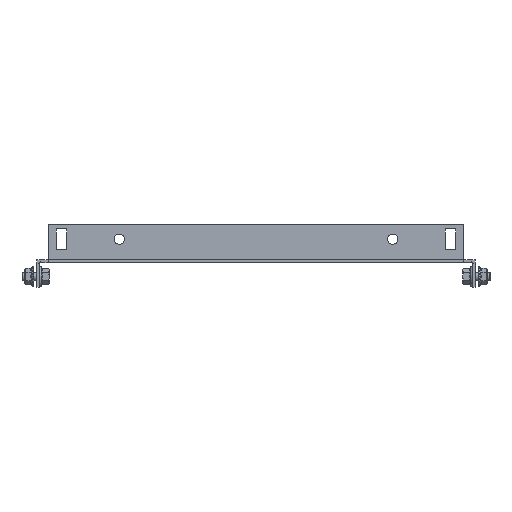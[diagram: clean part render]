
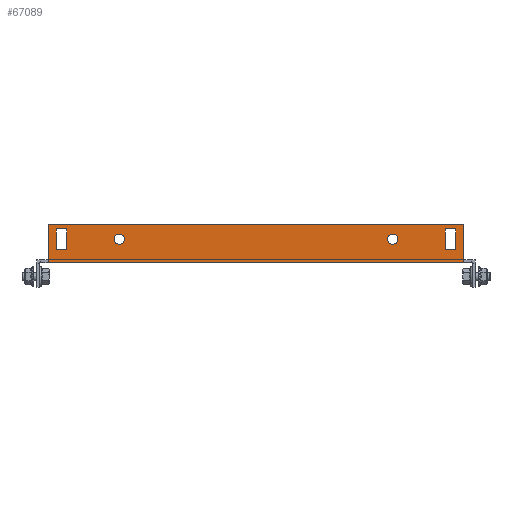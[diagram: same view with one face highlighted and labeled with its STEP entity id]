
A CAD part, front view. The second image highlights one B-rep face of the part: STEP entity #67089.
In plain terms, the highlighted planar face has unit normal (0, -1, 0).
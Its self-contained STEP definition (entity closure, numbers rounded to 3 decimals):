
#61990 = VERTEX_POINT('',#61991);
#61991 = CARTESIAN_POINT('',(142.,-484.5,0.));
#61997 = EDGE_CURVE('',#61998,#61990,#62000,.T.);
#61998 = VERTEX_POINT('',#61999);
#61999 = CARTESIAN_POINT('',(-142.,-484.5,0.));
#62000 = LINE('',#62001,#62002);
#62001 = CARTESIAN_POINT('',(-142.,-484.5,0.));
#62002 = VECTOR('',#62003,1.);
#62003 = DIRECTION('',(1.,-0.,-0.));
#66968 = VERTEX_POINT('',#66969);
#66969 = CARTESIAN_POINT('',(-142.,-484.5,2.6));
#66984 = EDGE_CURVE('',#66968,#61998,#66985,.T.);
#66985 = LINE('',#66986,#66987);
#66986 = CARTESIAN_POINT('',(-142.,-484.5,2.6));
#66987 = VECTOR('',#66988,1.);
#66988 = DIRECTION('',(0.,0.,-1.));
#67008 = VERTEX_POINT('',#67009);
#67009 = CARTESIAN_POINT('',(142.,-484.5,2.6));
#67015 = EDGE_CURVE('',#67008,#61990,#67016,.T.);
#67016 = LINE('',#67017,#67018);
#67017 = CARTESIAN_POINT('',(142.,-484.5,2.));
#67018 = VECTOR('',#67019,1.);
#67019 = DIRECTION('',(-0.,0.,-1.));
#67041 = VERTEX_POINT('',#67042);
#67042 = CARTESIAN_POINT('',(142.,-484.5,26.));
#67048 = EDGE_CURVE('',#67008,#67041,#67049,.T.);
#67049 = LINE('',#67050,#67051);
#67050 = CARTESIAN_POINT('',(142.,-484.5,26.));
#67051 = VECTOR('',#67052,1.);
#67052 = DIRECTION('',(-0.,0.,1.));
#67063 = EDGE_CURVE('',#67064,#66968,#67066,.T.);
#67064 = VERTEX_POINT('',#67065);
#67065 = CARTESIAN_POINT('',(-142.,-484.5,26.));
#67066 = LINE('',#67067,#67068);
#67067 = CARTESIAN_POINT('',(-142.,-484.5,2.));
#67068 = VECTOR('',#67069,1.);
#67069 = DIRECTION('',(-0.,0.,-1.));
#67089 = ADVANCED_FACE('',(#67090,#67124,#67135,#67146,#67180),#67193,
  .F.);
#67090 = FACE_BOUND('',#67091,.T.);
#67091 = EDGE_LOOP('',(#67092,#67102,#67110,#67118));
#67092 = ORIENTED_EDGE('',*,*,#67093,.F.);
#67093 = EDGE_CURVE('',#67094,#67096,#67098,.T.);
#67094 = VERTEX_POINT('',#67095);
#67095 = CARTESIAN_POINT('',(136.5,-484.5,9.));
#67096 = VERTEX_POINT('',#67097);
#67097 = CARTESIAN_POINT('',(136.5,-484.5,23.));
#67098 = LINE('',#67099,#67100);
#67099 = CARTESIAN_POINT('',(136.5,-484.5,23.));
#67100 = VECTOR('',#67101,1.);
#67101 = DIRECTION('',(-0.,-0.,1.));
#67102 = ORIENTED_EDGE('',*,*,#67103,.F.);
#67103 = EDGE_CURVE('',#67104,#67094,#67106,.T.);
#67104 = VERTEX_POINT('',#67105);
#67105 = CARTESIAN_POINT('',(129.5,-484.5,9.));
#67106 = LINE('',#67107,#67108);
#67107 = CARTESIAN_POINT('',(136.5,-484.5,9.));
#67108 = VECTOR('',#67109,1.);
#67109 = DIRECTION('',(1.,-0.,-0.));
#67110 = ORIENTED_EDGE('',*,*,#67111,.F.);
#67111 = EDGE_CURVE('',#67112,#67104,#67114,.T.);
#67112 = VERTEX_POINT('',#67113);
#67113 = CARTESIAN_POINT('',(129.5,-484.5,23.));
#67114 = LINE('',#67115,#67116);
#67115 = CARTESIAN_POINT('',(129.5,-484.5,9.));
#67116 = VECTOR('',#67117,1.);
#67117 = DIRECTION('',(0.,-0.,-1.));
#67118 = ORIENTED_EDGE('',*,*,#67119,.F.);
#67119 = EDGE_CURVE('',#67096,#67112,#67120,.T.);
#67120 = LINE('',#67121,#67122);
#67121 = CARTESIAN_POINT('',(129.5,-484.5,23.));
#67122 = VECTOR('',#67123,1.);
#67123 = DIRECTION('',(-1.,-0.,-0.));
#67124 = FACE_BOUND('',#67125,.T.);
#67125 = EDGE_LOOP('',(#67126));
#67126 = ORIENTED_EDGE('',*,*,#67127,.F.);
#67127 = EDGE_CURVE('',#67128,#67128,#67130,.T.);
#67128 = VERTEX_POINT('',#67129);
#67129 = CARTESIAN_POINT('',(93.5,-484.5,19.5));
#67130 = CIRCLE('',#67131,3.5);
#67131 = AXIS2_PLACEMENT_3D('',#67132,#67133,#67134);
#67132 = CARTESIAN_POINT('',(93.5,-484.5,16.));
#67133 = DIRECTION('',(0.,-1.,0.));
#67134 = DIRECTION('',(0.,0.,1.));
#67135 = FACE_BOUND('',#67136,.T.);
#67136 = EDGE_LOOP('',(#67137));
#67137 = ORIENTED_EDGE('',*,*,#67138,.F.);
#67138 = EDGE_CURVE('',#67139,#67139,#67141,.T.);
#67139 = VERTEX_POINT('',#67140);
#67140 = CARTESIAN_POINT('',(-93.5,-484.5,12.5));
#67141 = CIRCLE('',#67142,3.5);
#67142 = AXIS2_PLACEMENT_3D('',#67143,#67144,#67145);
#67143 = CARTESIAN_POINT('',(-93.5,-484.5,16.));
#67144 = DIRECTION('',(0.,-1.,0.));
#67145 = DIRECTION('',(0.,0.,-1.));
#67146 = FACE_BOUND('',#67147,.T.);
#67147 = EDGE_LOOP('',(#67148,#67158,#67166,#67174));
#67148 = ORIENTED_EDGE('',*,*,#67149,.F.);
#67149 = EDGE_CURVE('',#67150,#67152,#67154,.T.);
#67150 = VERTEX_POINT('',#67151);
#67151 = CARTESIAN_POINT('',(-136.5,-484.5,23.));
#67152 = VERTEX_POINT('',#67153);
#67153 = CARTESIAN_POINT('',(-136.5,-484.5,9.));
#67154 = LINE('',#67155,#67156);
#67155 = CARTESIAN_POINT('',(-136.5,-484.5,9.));
#67156 = VECTOR('',#67157,1.);
#67157 = DIRECTION('',(-0.,-0.,-1.));
#67158 = ORIENTED_EDGE('',*,*,#67159,.F.);
#67159 = EDGE_CURVE('',#67160,#67150,#67162,.T.);
#67160 = VERTEX_POINT('',#67161);
#67161 = CARTESIAN_POINT('',(-129.5,-484.5,23.));
#67162 = LINE('',#67163,#67164);
#67163 = CARTESIAN_POINT('',(-136.5,-484.5,23.));
#67164 = VECTOR('',#67165,1.);
#67165 = DIRECTION('',(-1.,-0.,-0.));
#67166 = ORIENTED_EDGE('',*,*,#67167,.F.);
#67167 = EDGE_CURVE('',#67168,#67160,#67170,.T.);
#67168 = VERTEX_POINT('',#67169);
#67169 = CARTESIAN_POINT('',(-129.5,-484.5,9.));
#67170 = LINE('',#67171,#67172);
#67171 = CARTESIAN_POINT('',(-129.5,-484.5,23.));
#67172 = VECTOR('',#67173,1.);
#67173 = DIRECTION('',(-0.,-0.,1.));
#67174 = ORIENTED_EDGE('',*,*,#67175,.F.);
#67175 = EDGE_CURVE('',#67152,#67168,#67176,.T.);
#67176 = LINE('',#67177,#67178);
#67177 = CARTESIAN_POINT('',(-129.5,-484.5,9.));
#67178 = VECTOR('',#67179,1.);
#67179 = DIRECTION('',(1.,-0.,-0.));
#67180 = FACE_BOUND('',#67181,.T.);
#67181 = EDGE_LOOP('',(#67182,#67183,#67184,#67185,#67186,#67187));
#67182 = ORIENTED_EDGE('',*,*,#67063,.T.);
#67183 = ORIENTED_EDGE('',*,*,#66984,.T.);
#67184 = ORIENTED_EDGE('',*,*,#61997,.T.);
#67185 = ORIENTED_EDGE('',*,*,#67015,.F.);
#67186 = ORIENTED_EDGE('',*,*,#67048,.T.);
#67187 = ORIENTED_EDGE('',*,*,#67188,.T.);
#67188 = EDGE_CURVE('',#67041,#67064,#67189,.T.);
#67189 = LINE('',#67190,#67191);
#67190 = CARTESIAN_POINT('',(-142.,-484.5,26.));
#67191 = VECTOR('',#67192,1.);
#67192 = DIRECTION('',(-1.,-0.,-0.));
#67193 = PLANE('',#67194);
#67194 = AXIS2_PLACEMENT_3D('',#67195,#67196,#67197);
#67195 = CARTESIAN_POINT('',(142.,-484.5,2.));
#67196 = DIRECTION('',(-0.,1.,0.));
#67197 = DIRECTION('',(0.,0.,1.));
